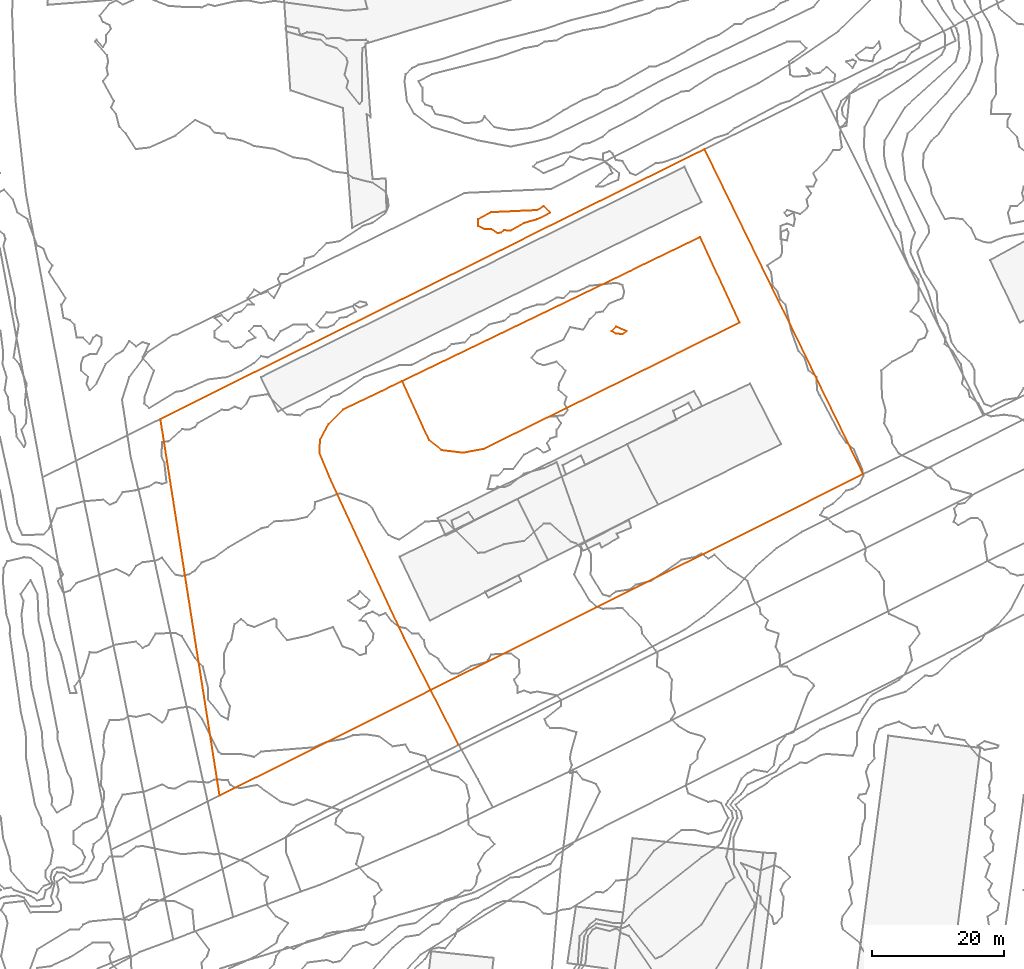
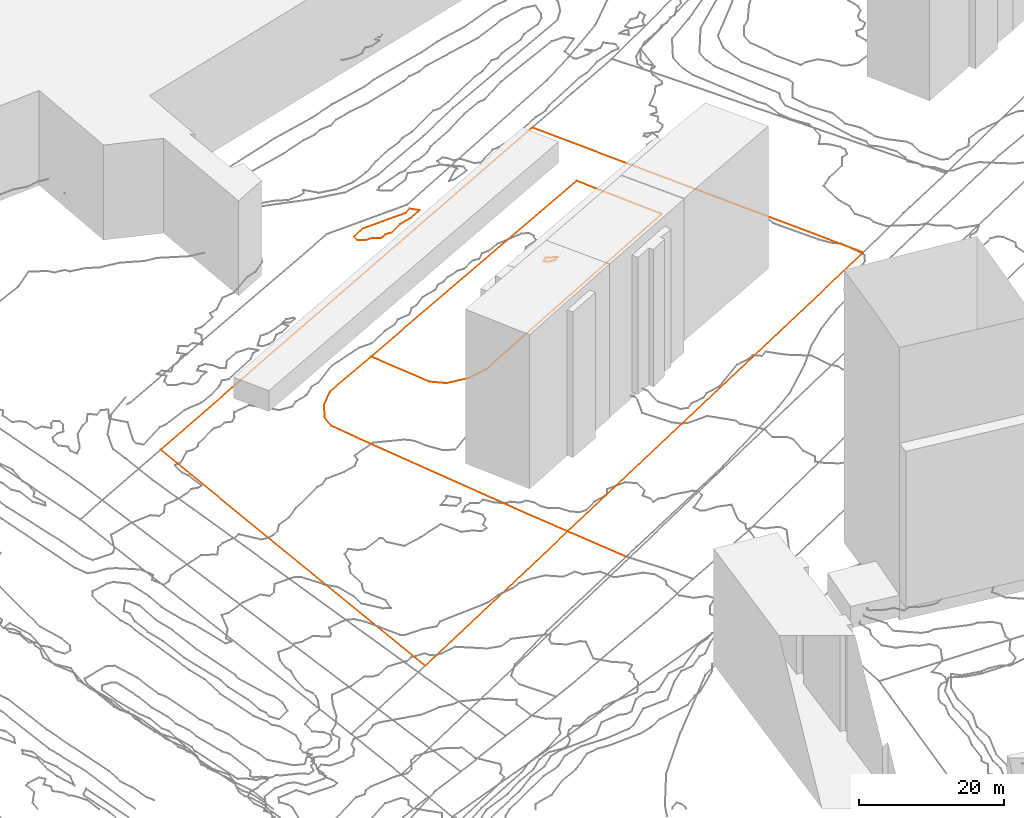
# Not in any storey, part 297 of 419: 5 proxies.
"""IFC2X3 model written with IfcOpenShell, lengths in metres."""

from ifc_helpers import new_model, entity, si_unit, frame, origin_with_axes, place, context, subcontext, project, element, save


model = new_model("IFC2X3")

# Units and contexts
model_context = context("Model", 3, precision=1e-05, world=origin_with_axes())
body_context = subcontext(model_context, "Body", "Model", "MODEL_VIEW")
ifc_project = project(units=[si_unit("AREAUNIT", "SQUARE_METRE"), si_unit("LENGTHUNIT", "METRE")], contexts=[model_context])

# Proxies
proxy_1_placement = place(None, frame((243.9920204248, 820.3976909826, 29.2), z_axis=(0.0, 0.0, 1.0), x_axis=(1.0, 0.0, 0.0)))
element("IfcBuildingElementProxy", 1, at=proxy_1_placement, Name="Route 37", ObjectType="NOTDEFINED", context=body_context, shape_type="GeometricCurveSet", body=[
    entity("IfcGeometricCurveSet", [entity("IfcPolyline", [entity("IfcCartesianPoint", [21.2, -44.4000000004, -2.5]), entity("IfcCartesianPoint", [12.9, -28.2000000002, -1.3]), entity("IfcCartesianPoint", [1.7, -4.0999999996, -0.1]), entity("IfcCartesianPoint", [0.0, 0.0, 0.0]), entity("IfcCartesianPoint", [0.1, 2.0, 0.2]), entity("IfcCartesianPoint", [1.4, 4.4000000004, 0.4]), entity("IfcCartesianPoint", [3.6, 6.5999999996, 0.5]), entity("IfcCartesianPoint", [12.6, 10.9000000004, 0.6])])]),
])
proxy_2_placement = place(None, frame((256.5920204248, 831.2976909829, 29.8), z_axis=(0.0, 0.0, 1.0), x_axis=(1.0, 0.0, 0.0)))
element("IfcBuildingElementProxy", 2, at=proxy_2_placement, Name="Route 337", ObjectType="NOTDEFINED", context=body_context, shape_type="GeometricCurveSet", body=[
    entity("IfcGeometricCurveSet", [entity("IfcPolyline", [entity("IfcCartesianPoint", [0.0, 0.0, 0.0]), entity("IfcCartesianPoint", [4.1, -9.0, -0.2]), entity("IfcCartesianPoint", [6.0, -10.5, -0.2]), entity("IfcCartesianPoint", [9.2, -10.9000000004, -0.2]), entity("IfcCartesianPoint", [12.4, -10.3000000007, -0.2]), entity("IfcCartesianPoint", [51.3, 8.8999999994, 0.6]), entity("IfcCartesianPoint", [45.3, 21.8999999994, 0.4]), entity("IfcCartesianPoint", [0.0, 0.0, 0.0])])]),
])
proxy_3_placement = place(None, frame((219.8220204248, 825.5576909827, 30.5019638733), z_axis=(0.0, 0.0, 1.0), x_axis=(1.0, 0.0, 0.0)))
element("IfcBuildingElementProxy", 3, at=proxy_3_placement, Name="Cadastre 303", ObjectType="NOTDEFINED", context=body_context, shape_type="GeometricCurveSet", body=[
    entity("IfcGeometricCurveSet", [entity("IfcPolyline", [entity("IfcCartesianPoint", [0.0, 0.0, 0.0]), entity("IfcCartesianPoint", [82.73, 41.0099999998, 0.3076155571]), entity("IfcCartesianPoint", [106.86, -8.3899999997, 0.8185189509]), entity("IfcCartesianPoint", [9.0, -57.2700000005, -4.7336572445]), entity("IfcCartesianPoint", [0.0, 0.0, 0.0])])]),
])
proxy_4_placement = place(None, frame((268.0919870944, 854.8976909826, 31.0), z_axis=(0.0, 0.0, 1.0), x_axis=(1.0, 0.0, 0.0)))
element("IfcBuildingElementProxy", 4, at=proxy_4_placement, Name="Contour 31.0 m", ObjectType="NOTDEFINED", context=body_context, shape_type="GeometricCurveSet", body=[
    entity("IfcGeometricCurveSet", [entity("IfcPolyline", [entity("IfcCartesianPoint", [3.5000833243, -1.0, 0.0]), entity("IfcCartesianPoint", [3.0000333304, -1.1111134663, 0.0]), entity("IfcCartesianPoint", [2.0000333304, -0.5000249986, 0.0]), entity("IfcCartesianPoint", [1.0000333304, -0.5000249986, 0.0]), entity("IfcCartesianPoint", [0.0, 0.0, 0.0]), entity("IfcCartesianPoint", [8.3322e-06, 1.0, 0.0]), entity("IfcCartesianPoint", [2.0000333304, 2.0833346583, 0.0]), entity("IfcCartesianPoint", [9.0000333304, 2.4000000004, 0.0]), entity("IfcCartesianPoint", [10.0000333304, 3.0000124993, 0.0]), entity("IfcCartesianPoint", [11.0000333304, 2.0000999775, 0.0]), entity("IfcCartesianPoint", [9.0000333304, 0.9999900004, 0.0]), entity("IfcCartesianPoint", [7.0000333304, 0.4444538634, 0.0]), entity("IfcCartesianPoint", [5.0000333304, -0.7142779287, 0.0]), entity("IfcCartesianPoint", [4.0000333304, -0.666666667, 0.0]), entity("IfcCartesianPoint", [3.5000833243, -1.0, 0.0])])]),
])
proxy_5_placement = place(None, frame((288.4253537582, 838.8976909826, 30.0), z_axis=(0.0, 0.0, 1.0), x_axis=(1.0, 0.0, 0.0)))
element("IfcBuildingElementProxy", 5, at=proxy_5_placement, Name="Contour 30.0 m", ObjectType="NOTDEFINED", context=body_context, shape_type="GeometricCurveSet", body=[
    entity("IfcGeometricCurveSet", [entity("IfcPolyline", [entity("IfcCartesianPoint", [1.6666666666, -0.4285714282, 0.0]), entity("IfcCartesianPoint", [2.2666666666, 0.0, 0.0]), entity("IfcCartesianPoint", [0.6666666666, 0.666666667, 0.0]), entity("IfcCartesianPoint", [0.0, 0.0, 0.0]), entity("IfcCartesianPoint", [0.6666666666, -0.4000000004, 0.0]), entity("IfcCartesianPoint", [1.6666666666, -0.4285714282, 0.0])])]),
])

save(model, "model.ifc")
